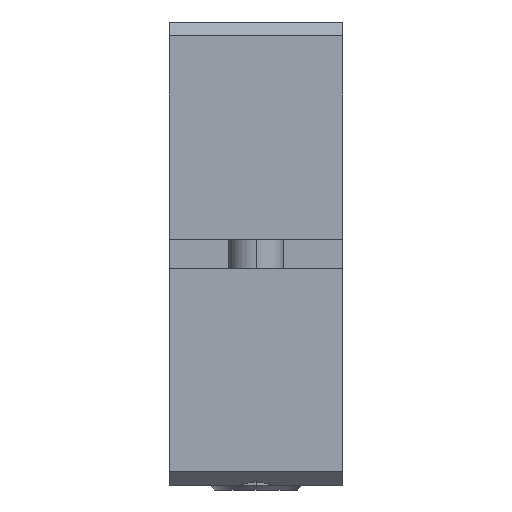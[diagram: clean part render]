
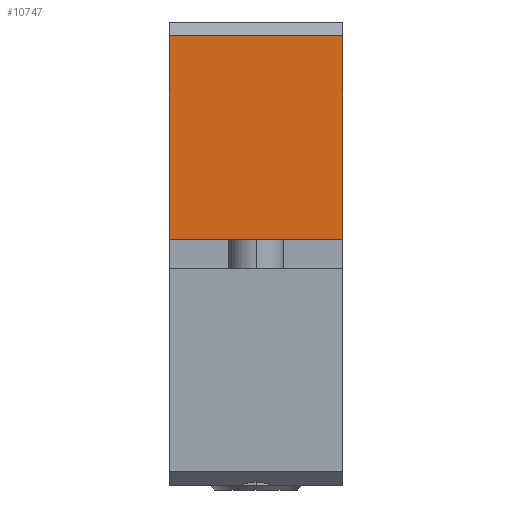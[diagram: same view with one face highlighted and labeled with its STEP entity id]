
A CAD part, left-side view. The second image highlights one B-rep face of the part: STEP entity #10747.
In plain terms, the highlighted planar face has unit normal (-1, 0, 0).
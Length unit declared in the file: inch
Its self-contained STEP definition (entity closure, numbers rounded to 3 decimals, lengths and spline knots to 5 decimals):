
#1716 = VERTEX_POINT ( 'NONE', #4113 ) ;
#1861 = ORIENTED_EDGE ( 'NONE', *, *, #13691, .F. ) ;
#1862 = ORIENTED_EDGE ( 'NONE', *, *, #13692, .T. ) ;
#1863 = ORIENTED_EDGE ( 'NONE', *, *, #13693, .T. ) ;
#1864 = ORIENTED_EDGE ( 'NONE', *, *, #13694, .T. ) ;
#1981 = AXIS2_PLACEMENT_3D ( 'NONE', #8468, #8467, #8466 ) ;
#2449 = VERTEX_POINT ( 'NONE', #8026 ) ;
#4113 = CARTESIAN_POINT ( 'NONE',  ( -1.266, 0.75, 0.0625 ) ) ;
#4688 = VERTEX_POINT ( 'NONE', #7933 ) ;
#4831 = VERTEX_POINT ( 'NONE', #7923 ) ;
#7923 = CARTESIAN_POINT ( 'NONE',  ( -1.266, 0., 0.0625 ) ) ;
#7933 = CARTESIAN_POINT ( 'NONE',  ( -1.266, 0., 0.94 ) ) ;
#8026 = CARTESIAN_POINT ( 'NONE',  ( -1.266, 0.75, 0.94 ) ) ;
#8466 = DIRECTION ( 'NONE',  ( 0., 0., -1. ) ) ;
#8467 = DIRECTION ( 'NONE',  ( 1., 0., 0. ) ) ;
#8468 = CARTESIAN_POINT ( 'NONE',  ( -1.266, 0.75, 1. ) ) ;
#8469 = PLANE ( 'NONE',  #1981 ) ;
#10586 = EDGE_LOOP ( 'NONE', ( #1861, #1862, #1863, #1864 ) ) ;
#10747 = ADVANCED_FACE ( 'NONE', ( #18579 ), #8469, .F. ) ;
#13691 = EDGE_CURVE ( 'NONE', #1716, #2449, #19204, .T. ) ;
#13692 = EDGE_CURVE ( 'NONE', #1716, #4831, #19207, .T. ) ;
#13693 = EDGE_CURVE ( 'NONE', #4831, #4688, #19209, .T. ) ;
#13694 = EDGE_CURVE ( 'NONE', #4688, #2449, #19211, .T. ) ;
#14083 = DIRECTION ( 'NONE',  ( 0., 1., 0. ) ) ;
#14085 = CARTESIAN_POINT ( 'NONE',  ( -1.266, 0.75, 0.94 ) ) ;
#14087 = DIRECTION ( 'NONE',  ( 0., 0., 1. ) ) ;
#14088 = CARTESIAN_POINT ( 'NONE',  ( -1.266, 0., 1. ) ) ;
#14090 = DIRECTION ( 'NONE',  ( 0., -1., 0. ) ) ;
#14092 = CARTESIAN_POINT ( 'NONE',  ( -1.266, 0.75, 0.0625 ) ) ;
#14093 = DIRECTION ( 'NONE',  ( 0., 0., 1. ) ) ;
#14094 = CARTESIAN_POINT ( 'NONE',  ( -1.266, 0.75, 1. ) ) ;
#18579 = FACE_OUTER_BOUND ( 'NONE', #10586, .T. ) ;
#19204 = LINE ( 'NONE', #14094, #19206 ) ;
#19206 = VECTOR ( 'NONE', #14093, 39.37008 ) ;
#19207 = LINE ( 'NONE', #14092, #19208 ) ;
#19208 = VECTOR ( 'NONE', #14090, 39.37008 ) ;
#19209 = LINE ( 'NONE', #14088, #19210 ) ;
#19210 = VECTOR ( 'NONE', #14087, 39.37008 ) ;
#19211 = LINE ( 'NONE', #14085, #19212 ) ;
#19212 = VECTOR ( 'NONE', #14083, 39.37008 ) ;
